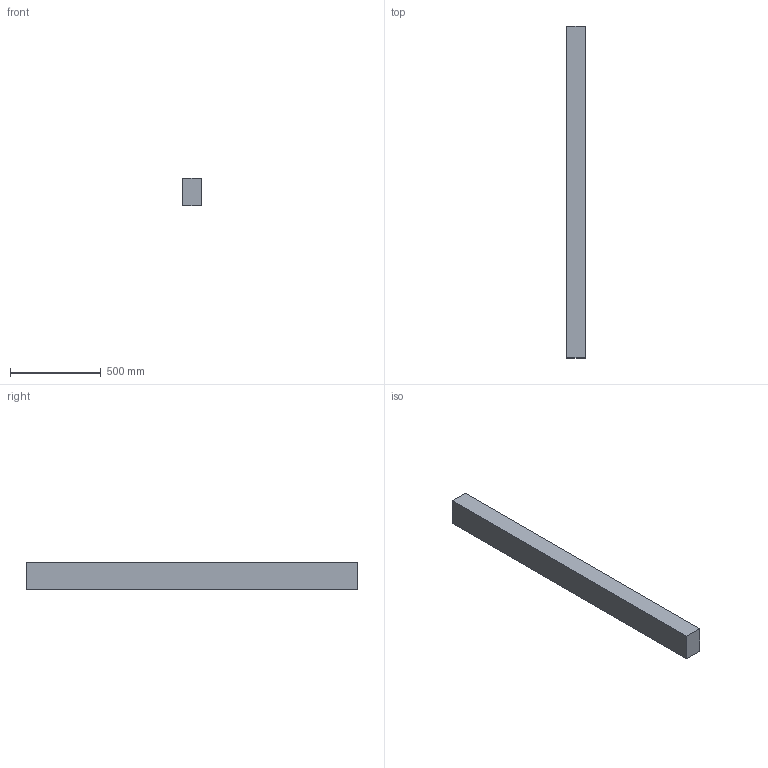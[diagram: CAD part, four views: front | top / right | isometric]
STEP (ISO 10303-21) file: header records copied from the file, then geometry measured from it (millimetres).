
FILE_DESCRIPTION(/* description */ (''),/* implementation_level */ '2;1');
FILE_NAME(/* name */ '4x6x72',/* time_stamp */ '2024-09-20T11:45:40-05:00',/* author */ (''),/* organization */ (''),/* preprocessor_version */ 'ST-DEVELOPER v19.2',/* originating_system */ 'Rhino 8.5',/* authorisation */ '');
FILE_SCHEMA (('CONFIG_CONTROL_DESIGN'));
Length unit declared in the file: inch
Products named in the file (1): Document
Bounding box: 101.6 x 1828.8 x 152.4 mm (x, y, z)
Volume: 28316846.6 mm3; surface area: 959998.1 mm2
Topology: 1 solids, 1 shells, 6 faces, 12 edges, 8 vertices
Faces by surface type: plane 6
Entity records: 226 total; most frequent: CARTESIAN_POINT 40, ORIENTED_EDGE 24, EDGE_CURVE 12, B_SPLINE_CURVE_WITH_KNOTS 12, DIRECTION 10, VERTEX_POINT 8, AXIS2_PLACEMENT_3D 8, ORGANIZATION 7
